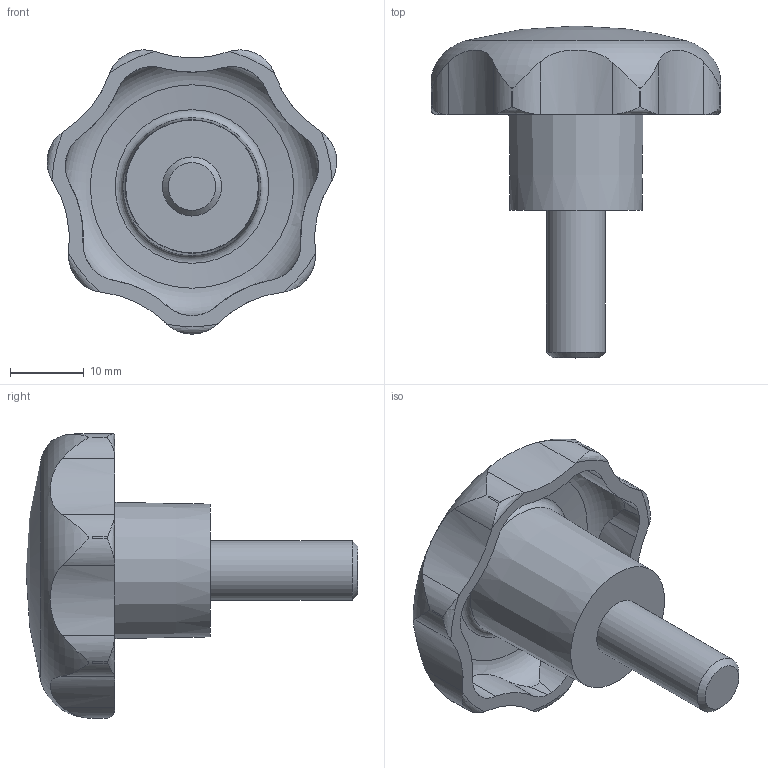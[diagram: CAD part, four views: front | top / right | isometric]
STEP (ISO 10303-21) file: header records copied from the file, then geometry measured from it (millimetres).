
FILE_DESCRIPTION( ( 'STEP AP203' ), '1' );
FILE_NAME( 'C:/Temp/Ganter_Step_05_03_2020/data/2_2/gn_6336_4/gn_6336_4_st/Star knob GN 6336.4-ST-40-M8-20.stp', '2020-03-05T12:07:28', ( 'License CC BY-ND 4.0' ), ( 'CADENAS' ), ' ', 'PARTsolutions', ' ' );
FILE_SCHEMA( ( 'CONFIG_CONTROL_DESIGN' ) );
Length unit declared in the file: millimetre
Products named in the file (1): _Star knob GN 6336.4-ST-40-M8-20
Bounding box: 39.25 x 45 x 38.51 mm (x, y, z)
Volume: 11810.4 mm3; surface area: 5386.2 mm2
Topology: 1 solids, 1 shells, 74 faces, 209 edges, 138 vertices
Faces by surface type: cylinder 43, torus 17, cone 10, plane 3, sphere 1
Full cylindrical faces by diameter (mm): 8 x1
Entity records: 3288 total; most frequent: CARTESIAN_POINT 1437, ORIENTED_EDGE 394, DIRECTION 362, EDGE_CURVE 197, AXIS2_PLACEMENT_3D 160, VERTEX_POINT 135, CIRCLE 85, EDGE_LOOP 83
